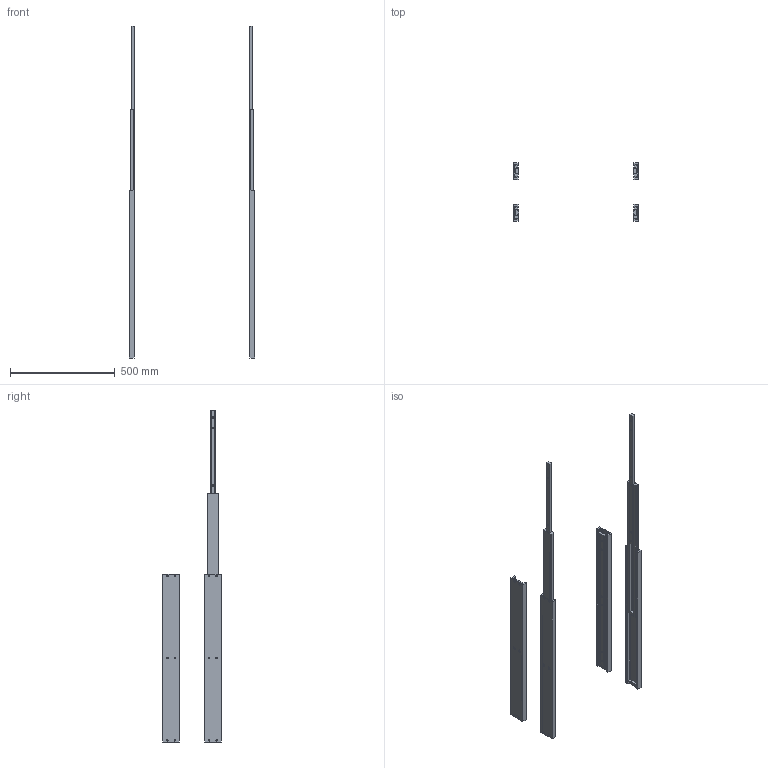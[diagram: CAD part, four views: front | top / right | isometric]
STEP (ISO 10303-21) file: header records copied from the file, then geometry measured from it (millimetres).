
FILE_DESCRIPTION((''),'2;1');
FILE_NAME('D:\01 WORK\DIST\02172A-Drawings for website\4160\STEP\4160-0080.stp','2010-10-20T12:45:09',('jthatch'),(''),'Autodesk Inventor 2009','Autodesk Inventor 2009','');
FILE_SCHEMA(('AUTOMOTIVE_DESIGN { 1 0 10303 214 1 1 1 1 }'));
Length unit declared in the file: millimetre
Products named in the file (11): 4160-0080_Internet simplified version; 014160-0080_Internet simplified version; 034160-0080_Internet simplified version; 024160-0080_Internet simplified version; OM closing stop_Internet simplified version; Inter closing stop_Internet simplified version; OM closing stop_Internet simplified version_MIR; Inter closing stop_Internet simplified version_MIR; 024160-0080_Internet simplified version_MIR; 034160-0080_Internet simplified version_MIR; 014160-0080_Internet simplified version_MIR
Assembly tree (20 placements, depth 2):
  4160-0080_Internet simplified version
    014160-0080_Internet simplified version  x2
    034160-0080_Internet simplified version  x2
    024160-0080_Internet simplified version  x2
    OM closing stop_Internet simplified version  x2
    Inter closing stop_Internet simplified version  x2
    OM closing stop_Internet simplified version_MIR  x2
    Inter closing stop_Internet simplified version_MIR  x2
    024160-0080_Internet simplified version_MIR  x2
    034160-0080_Internet simplified version_MIR  x2
    014160-0080_Internet simplified version_MIR  x2
Bounding box: 600 x 280 x 1585 mm (x, y, z)
Volume: 4683854.3 mm3; surface area: 1532785 mm2
Topology: 20 solids, 20 shells, 360 faces, 992 edges, 672 vertices
Faces by surface type: bspline 180, plane 94, cylinder 74, cone 12
Full cylindrical faces by diameter (mm): 6.5 x4, 6.6 x12, 6.647 x12
Entity records: 6529 total; most frequent: CARTESIAN_POINT 1819, ORIENTED_EDGE 856, DIRECTION 830, EDGE_CURVE 428, VERTEX_POINT 308, AXIS2_PLACEMENT_3D 281, EDGE_LOOP 276, VECTOR 268
